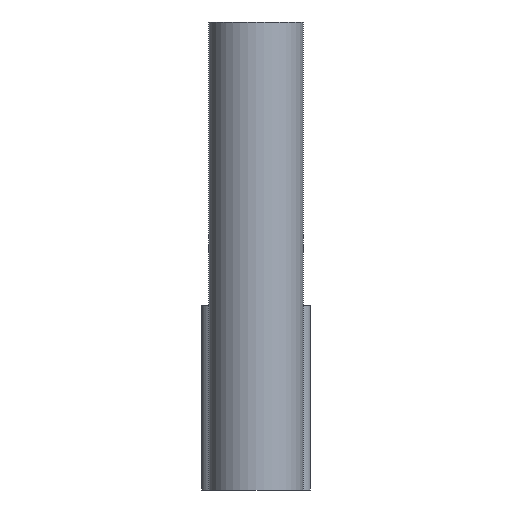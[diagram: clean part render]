
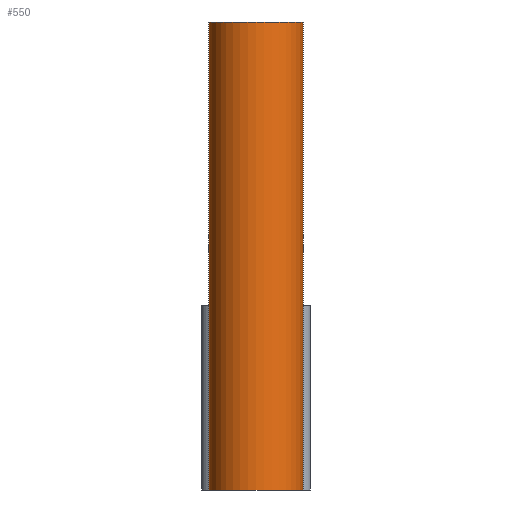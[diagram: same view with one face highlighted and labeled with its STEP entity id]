
A CAD part, front view. The second image highlights one B-rep face of the part: STEP entity #550.
In plain terms, the highlighted cylindrical face has radius 2 mm (diameter 4 mm), a partial arc.
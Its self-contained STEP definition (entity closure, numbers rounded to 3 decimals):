
#20=CYLINDRICAL_SURFACE('',#597,2.);
#32=LINE('',#828,#86);
#37=LINE('',#840,#91);
#86=VECTOR('',#660,1000.);
#91=VECTOR('',#669,1000.);
#146=ORIENTED_EDGE('',*,*,#300,.T.);
#147=ORIENTED_EDGE('',*,*,#301,.F.);
#148=ORIENTED_EDGE('',*,*,#302,.F.);
#149=ORIENTED_EDGE('',*,*,#295,.T.);
#295=EDGE_CURVE('',#373,#372,#32,.T.);
#300=EDGE_CURVE('',#372,#377,#423,.T.);
#301=EDGE_CURVE('',#378,#377,#37,.T.);
#302=EDGE_CURVE('',#373,#378,#424,.T.);
#372=VERTEX_POINT('',#827);
#373=VERTEX_POINT('',#829);
#377=VERTEX_POINT('',#839);
#378=VERTEX_POINT('',#841);
#423=CIRCLE('',#598,2.);
#424=CIRCLE('',#599,2.);
#447=EDGE_LOOP('',(#146,#147,#148,#149));
#487=FACE_BOUND('',#447,.T.);
#550=ADVANCED_FACE('',(#487),#20,.T.);
#597=AXIS2_PLACEMENT_3D('',#837,#665,#666);
#598=AXIS2_PLACEMENT_3D('',#838,#667,#668);
#599=AXIS2_PLACEMENT_3D('',#842,#670,#671);
#660=DIRECTION('',(0.,0.,1.));
#665=DIRECTION('',(0.,0.,1.));
#666=DIRECTION('',(1.,0.,0.));
#667=DIRECTION('',(0.,0.,-1.));
#668=DIRECTION('',(-1.,0.,0.));
#669=DIRECTION('',(0.,0.,1.));
#670=DIRECTION('',(0.,0.,-1.));
#671=DIRECTION('',(-1.,0.,0.));
#827=CARTESIAN_POINT('',(1.4,1.428,0.));
#828=CARTESIAN_POINT('',(1.4,1.428,-19.8));
#829=CARTESIAN_POINT('',(1.4,1.428,-19.8));
#837=CARTESIAN_POINT('',(0.,0.,-19.8));
#838=CARTESIAN_POINT('',(0.,0.,0.));
#839=CARTESIAN_POINT('',(-1.4,1.428,0.));
#840=CARTESIAN_POINT('',(-1.4,1.428,-19.8));
#841=CARTESIAN_POINT('',(-1.4,1.428,-19.8));
#842=CARTESIAN_POINT('',(0.,0.,-19.8));
